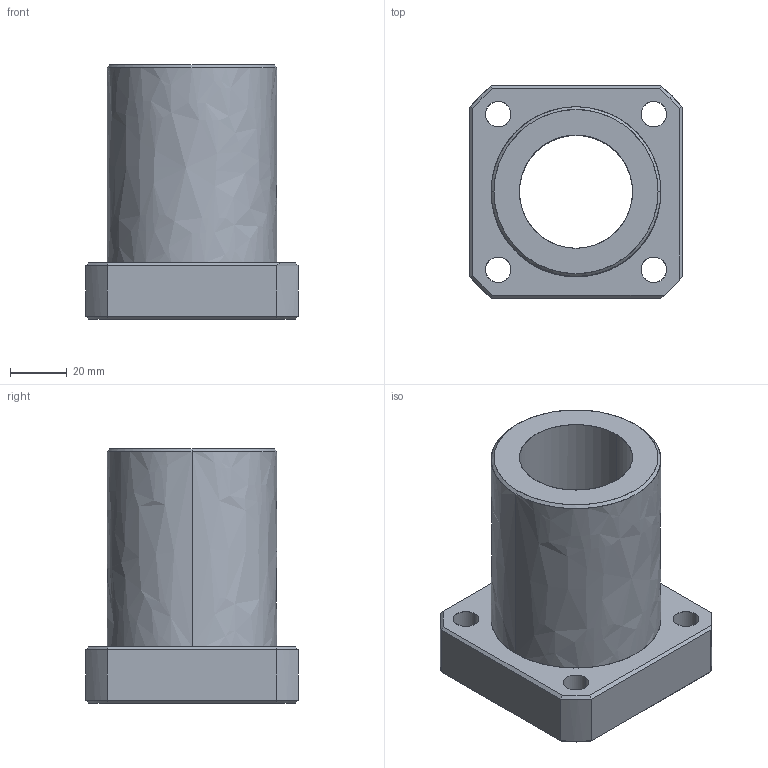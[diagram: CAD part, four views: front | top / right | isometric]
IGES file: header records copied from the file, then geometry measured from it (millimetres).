
Global section: file name: No Iges File Name specified; native system: AutoDesk Inventor R10; preprocessor: AutoDesk Inventor Iges Exporter R10; author: No Author specified; organization: No Organization specified; date: 20101214.155346; units: millimetre
Bounding box: 75 x 75 x 90 mm (x, y, z)
Surface area: 40020.3 mm2 (no closed solid volume)
Topology: 0 solids, 0 shells, 62 faces, 448 edges, 448 vertices
Faces by surface type: bspline 62
